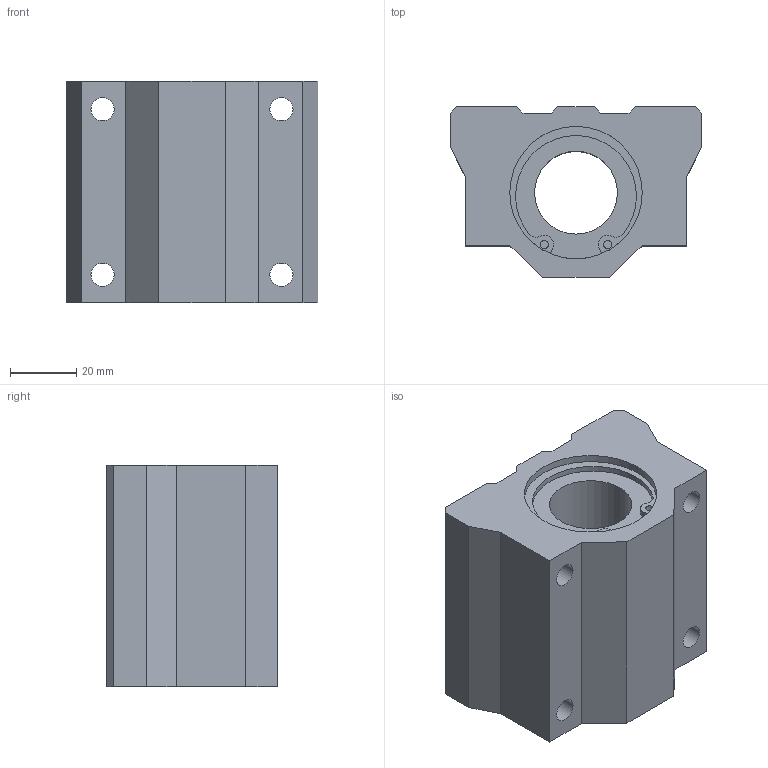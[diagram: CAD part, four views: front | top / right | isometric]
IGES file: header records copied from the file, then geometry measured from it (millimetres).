
Start section: 3D InterOp IGES (Version 21 0 1), Spatial Corp. Copyright (c) 1999-2007.
Global section: file name: LC-25VAUU.igs; native system: Spatial Corp.; preprocessor: 3D InterOp GENERIC/IGES 3.0; author: Noname; organization: Noname; date: 20220519.103611; units: millimetre
Bounding box: 76 x 51.5 x 67 mm (x, y, z)
Surface area: 30420.5 mm2 (no closed solid volume)
Topology: 0 solids, 0 shells, 86 faces, 452 edges, 452 vertices
Faces by surface type: revolution 50, extrusion 36
